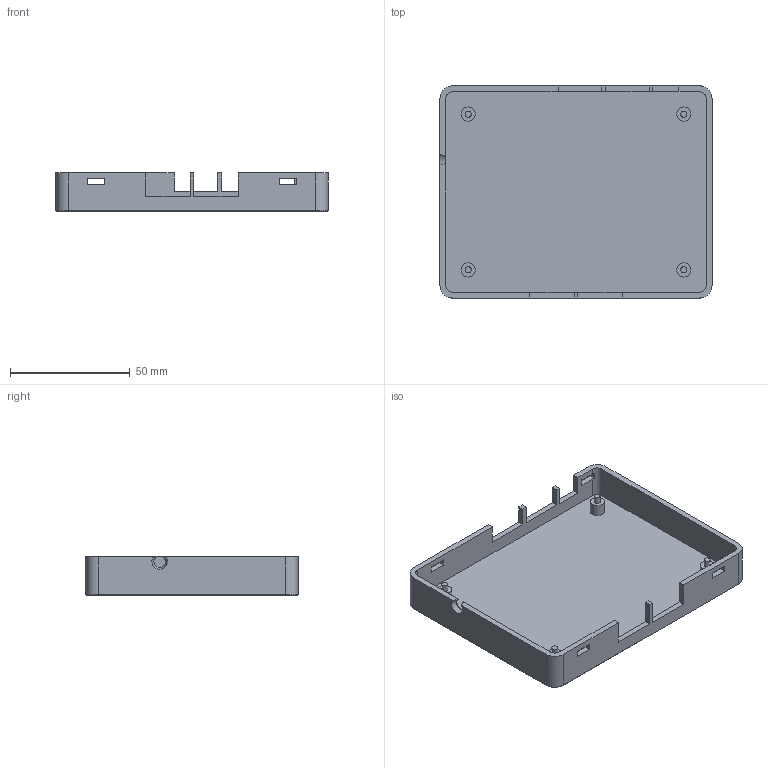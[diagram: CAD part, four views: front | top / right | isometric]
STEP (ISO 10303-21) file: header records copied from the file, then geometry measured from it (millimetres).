
FILE_DESCRIPTION(('Open CASCADE Model'),'2;1');
FILE_NAME('Open CASCADE Shape Model','2026-10-15T17:44:17',('Author'),( 'Open CASCADE'),'Open CASCADE STEP processor 7.9','Open CASCADE 7.9' ,'Unknown');
FILE_SCHEMA(('AUTOMOTIVE_DESIGN { 1 0 10303 214 1 1 1 1 }'));
Length unit declared in the file: millimetre
Products named in the file (1): Open CASCADE STEP translator 7.9 1
Bounding box: 113.6 x 88.6 x 16 mm (x, y, z)
Volume: 35372.7 mm3; surface area: 30746.3 mm2
Topology: 1 solids, 1 shells, 81 faces, 211 edges, 138 vertices
Faces by surface type: plane 59, cylinder 17, cone 5
Full cylindrical faces by diameter (mm): 2.6 x4, 6 x4
Entity records: 5040 total; most frequent: CARTESIAN_POINT 1079, DIRECTION 633, ORIENTED_EDGE 422, PCURVE 422, DEFINITIONAL_REPRESENTATION 422, LINE 342, VECTOR 342, EDGE_CURVE 211
